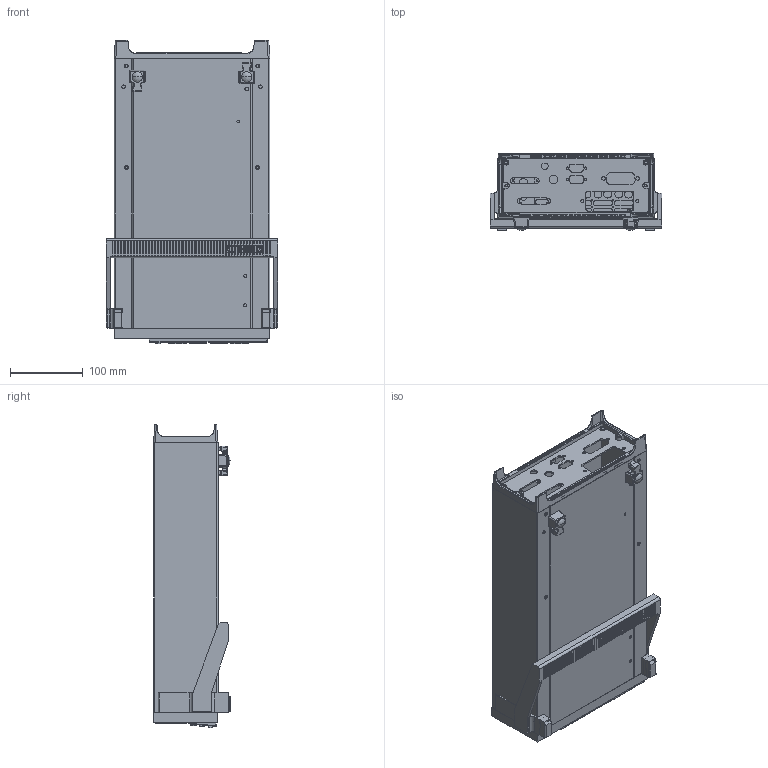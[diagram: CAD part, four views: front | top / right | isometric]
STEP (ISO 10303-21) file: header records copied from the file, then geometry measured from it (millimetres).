
FILE_DESCRIPTION((''),'2;1');
FILE_NAME('2520_ASM','2020-01-10T',('mboehnle'),('Keithley Instruments'),'CREO PARAMETRIC BY PTC INC, 2016050','CREO PARAMETRIC BY PTC INC, 2016050','');
FILE_SCHEMA(('CONFIG_CONTROL_DESIGN'));
Length unit declared in the file: inch
Products named in the file (18): 2520-301; 2520-303; 2520-304; 2520-303_ASM; 2520-302_ASM; 2306-307; 2520-305; GCS-1; 2520-LABEL; 2602A-315; 428-303; 428-319-PLEXUS; 428-328; 428-338; 428-329; FE-22; FE-6; 2520_ASM
Assembly tree (20 placements, depth 4):
  2520_ASM
    2520-302_ASM
      2520-301
      2520-303_ASM
        2520-303
        2520-304
    2306-307
    2520-305
    GCS-1
    2520-LABEL
    2602A-315
    428-303
    428-319-PLEXUS  x2
    428-328
    428-338
    428-329
    FE-22  x2
    FE-6  x2
Bounding box: 234.95 x 105.44 x 416.26 mm (x, y, z)
Volume: 741194.1 mm3; surface area: 820495.6 mm2
Topology: 21 solids, 21 shells, 5139 faces, 14092 edges, 9259 vertices
Faces by surface type: plane 4388, cylinder 611, cone 54, bspline 42, torus 36, sphere 8
Entity records: 198004 total; most frequent: CARTESIAN_POINT 30767, ORIENTED_EDGE 27448, DIRECTION 24607, EDGE_CURVE 13724, PRESENTATION_STYLE_ASSIGNMENT 12736, STYLED_ITEM 12736, CURVE_STYLE 12622, VECTOR 12371
